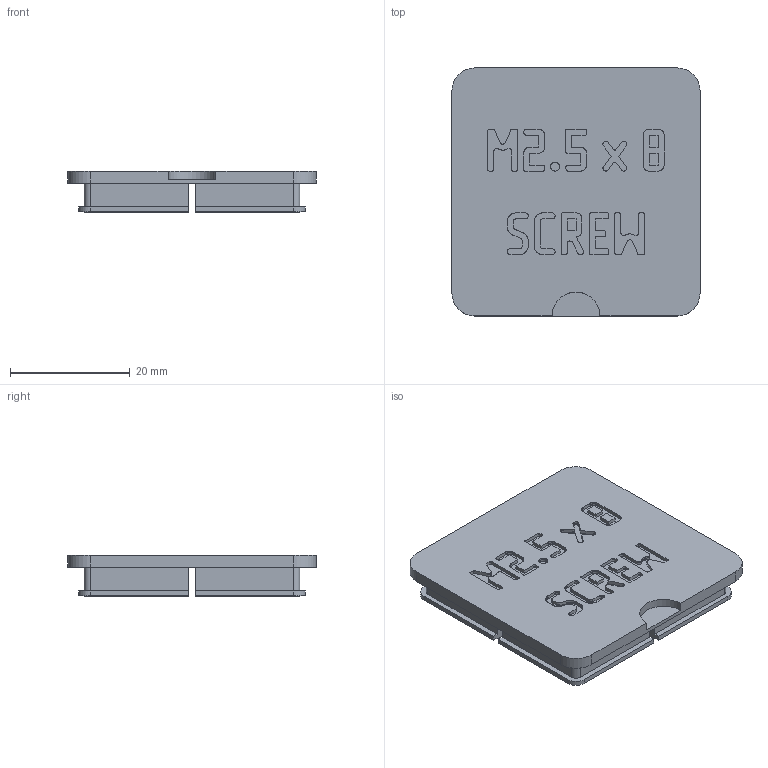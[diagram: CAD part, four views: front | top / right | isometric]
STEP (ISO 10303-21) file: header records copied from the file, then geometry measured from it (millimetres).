
FILE_DESCRIPTION(('Open CASCADE Model'),'2;1');
FILE_NAME('Open CASCADE Shape Model','2026-11-03T17:10:09',('Author'),( 'Open CASCADE'),'Open CASCADE STEP processor 8.0','build123d', 'Unknown');
FILE_SCHEMA(('AUTOMOTIVE_DESIGN { 1 0 10303 214 1 1 1 1 }'));
Products named in the file (1): COMPOUND
Bounding box: 41.5 x 41.5 x 6.9 mm (x, y, z)
Volume: 4178.4 mm3; surface area: 5554.9 mm2
Topology: 1 solids, 1 shells, 1239 faces, 3666 edges, 2444 vertices
Faces by surface type: plane 1218, cylinder 21
Entity records: 88142 total; most frequent: CARTESIAN_POINT 15038, DIRECTION 13324, LINE 10750, VECTOR 10750, ORIENTED_EDGE 7332, PCURVE 7332, DEFINITIONAL_REPRESENTATION 7332, EDGE_CURVE 3666
